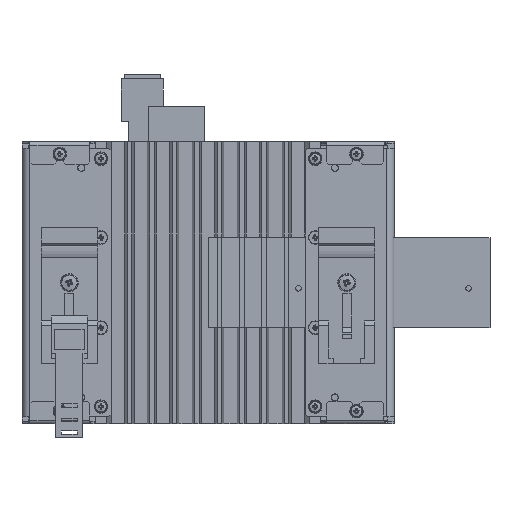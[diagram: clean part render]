
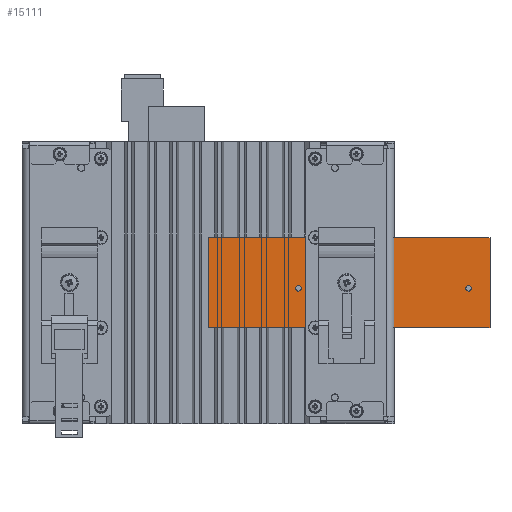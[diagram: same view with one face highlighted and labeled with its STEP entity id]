
A CAD part, left-side view. The second image highlights one B-rep face of the part: STEP entity #15111.
In plain terms, the highlighted planar face has unit normal (-1, 0, 0).
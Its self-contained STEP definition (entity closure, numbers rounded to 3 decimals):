
#15111 = ADVANCED_FACE( '', ( #34246, #34247, #34248 ), #34249, .T. );
#34246 = FACE_BOUND( '', #66054, .T. );
#34247 = FACE_BOUND( '', #66055, .T. );
#34248 = FACE_OUTER_BOUND( '', #66056, .T. );
#34249 = PLANE( '', #66057 );
#66054 = EDGE_LOOP( '', ( #119619 ) );
#66055 = EDGE_LOOP( '', ( #119620 ) );
#66056 = EDGE_LOOP( '', ( #119621, #119622, #119623, #119624 ) );
#66057 = AXIS2_PLACEMENT_3D( '', #119625, #119626, #119627 );
#119619 = ORIENTED_EDGE( '', *, *, #163733, .F. );
#119620 = ORIENTED_EDGE( '', *, *, #160625, .F. );
#119621 = ORIENTED_EDGE( '', *, *, #164417, .F. );
#119622 = ORIENTED_EDGE( '', *, *, #149018, .F. );
#119623 = ORIENTED_EDGE( '', *, *, #159358, .T. );
#119624 = ORIENTED_EDGE( '', *, *, #164418, .T. );
#119625 = CARTESIAN_POINT( '', ( -50., -125., -20. ) );
#119626 = DIRECTION( '', ( -1., 0., 0. ) );
#119627 = DIRECTION( '', ( 0., 0., 1. ) );
#149018 = EDGE_CURVE( '', #180217, #180213, #180219, .T. );
#159358 = EDGE_CURVE( '', #180217, #196832, #196835, .T. );
#160625 = EDGE_CURVE( '', #198640, #198640, #198641, .T. );
#163733 = EDGE_CURVE( '', #202939, #202939, #202940, .T. );
#164417 = EDGE_CURVE( '', #180213, #203830, #203831, .T. );
#164418 = EDGE_CURVE( '', #196832, #203830, #203832, .T. );
#180213 = VERTEX_POINT( '', #223886 );
#180217 = VERTEX_POINT( '', #223892 );
#180219 = LINE( '', #223895, #223896 );
#196832 = VERTEX_POINT( '', #249961 );
#196835 = LINE( '', #249965, #249966 );
#198640 = VERTEX_POINT( '', #253095 );
#198641 = CIRCLE( '', #253096, 1.23 );
#202939 = VERTEX_POINT( '', #259984 );
#202940 = CIRCLE( '', #259985, 1.23 );
#203830 = VERTEX_POINT( '', #261353 );
#203831 = LINE( '', #261354, #261355 );
#203832 = LINE( '', #261356, #261357 );
#223886 = CARTESIAN_POINT( '', ( -50., 0., -20. ) );
#223892 = CARTESIAN_POINT( '', ( -50., -125., -20. ) );
#223895 = CARTESIAN_POINT( '', ( -50., -125., -20. ) );
#223896 = VECTOR( '', #275450, 1000. );
#249961 = CARTESIAN_POINT( '', ( -50., -125., 20. ) );
#249965 = CARTESIAN_POINT( '', ( -50., -125., -20. ) );
#249966 = VECTOR( '', #283758, 1000. );
#253095 = CARTESIAN_POINT( '', ( -50., -41.28, -2.5 ) );
#253096 = AXIS2_PLACEMENT_3D( '', #284653, #284654, #284655 );
#259984 = CARTESIAN_POINT( '', ( -50., -115.5, -1.27 ) );
#259985 = AXIS2_PLACEMENT_3D( '', #287014, #287015, #287016 );
#261353 = CARTESIAN_POINT( '', ( -50., 0., 20. ) );
#261354 = CARTESIAN_POINT( '', ( -50., 0., -20. ) );
#261355 = VECTOR( '', #287451, 1000. );
#261356 = CARTESIAN_POINT( '', ( -50., -125., 20. ) );
#261357 = VECTOR( '', #287452, 1000. );
#275450 = DIRECTION( '', ( 0., 1., 0. ) );
#283758 = DIRECTION( '', ( 0., 0., 1. ) );
#284653 = CARTESIAN_POINT( '', ( -50., -40.05, -2.5 ) );
#284654 = DIRECTION( '', ( -1., 0., 0. ) );
#284655 = DIRECTION( '', ( 0., -1., 0. ) );
#287014 = CARTESIAN_POINT( '', ( -50., -115.5, -2.5 ) );
#287015 = DIRECTION( '', ( -1., 0., 0. ) );
#287016 = DIRECTION( '', ( 0., 0., 1. ) );
#287451 = DIRECTION( '', ( 0., 0., 1. ) );
#287452 = DIRECTION( '', ( 0., 1., 0. ) );
